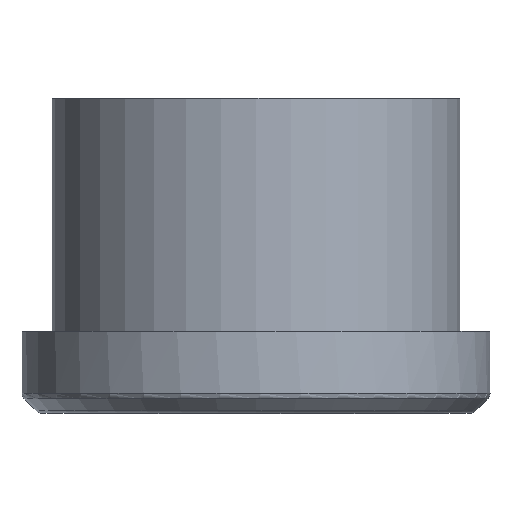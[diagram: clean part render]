
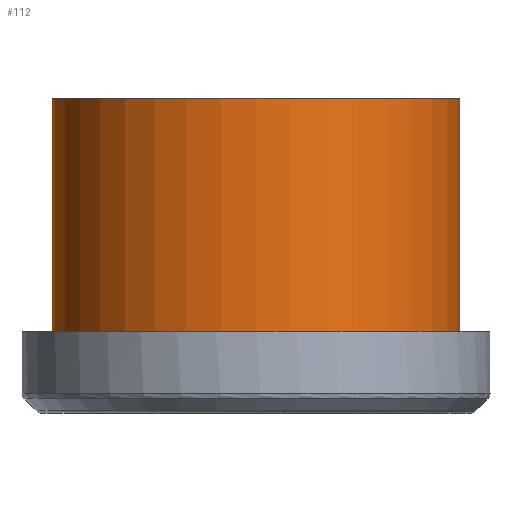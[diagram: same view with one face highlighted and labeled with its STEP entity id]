
A CAD part, top view. The second image highlights one B-rep face of the part: STEP entity #112.
In plain terms, the highlighted cylindrical face has radius 26.25 mm (diameter 52.5 mm), a full revolution.
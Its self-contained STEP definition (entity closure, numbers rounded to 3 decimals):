
#4 = ORIENTED_EDGE ( 'NONE', *, *, #384, .F. ) ;
#28 = EDGE_CURVE ( 'NONE', #471, #471, #139, .T. ) ;
#43 = EDGE_LOOP ( 'NONE', ( #231 ) ) ;
#70 = CYLINDRICAL_SURFACE ( 'NONE', #271, 26.25 ) ;
#112 = ADVANCED_FACE ( 'NONE', ( #316, #280 ), #70, .T. ) ;
#117 = CARTESIAN_POINT ( 'NONE',  ( 0., 590., 42.639 ) ) ;
#139 = CIRCLE ( 'NONE', #184, 26.25 ) ;
#184 = AXIS2_PLACEMENT_3D ( 'NONE', #328, #361, #533 ) ;
#191 = EDGE_LOOP ( 'NONE', ( #4 ) ) ;
#211 = VERTEX_POINT ( 'NONE', #427 ) ;
#231 = ORIENTED_EDGE ( 'NONE', *, *, #28, .T. ) ;
#232 = CARTESIAN_POINT ( 'NONE',  ( 0., 610., 42.639 ) ) ;
#248 = DIRECTION ( 'NONE',  ( 0., 0., -1. ) ) ;
#270 = AXIS2_PLACEMENT_3D ( 'NONE', #232, #446, #490 ) ;
#271 = AXIS2_PLACEMENT_3D ( 'NONE', #117, #459, #248 ) ;
#280 = FACE_OUTER_BOUND ( 'NONE', #191, .T. ) ;
#316 = FACE_OUTER_BOUND ( 'NONE', #43, .T. ) ;
#328 = CARTESIAN_POINT ( 'NONE',  ( 0., 640., 42.639 ) ) ;
#361 = DIRECTION ( 'NONE',  ( 0., -1., 0. ) ) ;
#384 = EDGE_CURVE ( 'NONE', #211, #211, #463, .T. ) ;
#427 = CARTESIAN_POINT ( 'NONE',  ( 0., 610., 16.389 ) ) ;
#446 = DIRECTION ( 'NONE',  ( 0., -1., 0. ) ) ;
#459 = DIRECTION ( 'NONE',  ( 0., -1., 0. ) ) ;
#463 = CIRCLE ( 'NONE', #270, 26.25 ) ;
#471 = VERTEX_POINT ( 'NONE', #509 ) ;
#490 = DIRECTION ( 'NONE',  ( 0., 0., -1. ) ) ;
#509 = CARTESIAN_POINT ( 'NONE',  ( 0., 640., 16.389 ) ) ;
#533 = DIRECTION ( 'NONE',  ( 0., 0., -1. ) ) ;
